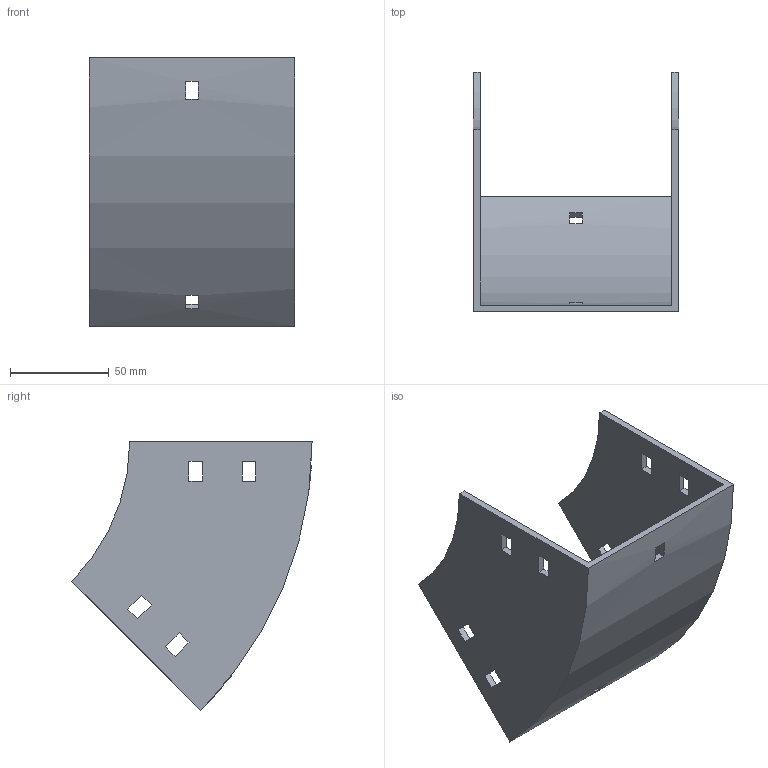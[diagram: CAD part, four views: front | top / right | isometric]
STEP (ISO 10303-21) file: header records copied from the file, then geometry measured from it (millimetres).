
FILE_DESCRIPTION (( 'STEP AP214' ), '1' );
FILE_NAME ('31B1I100.step', '2025-02-21T09:48:03', ( '' ), ( '' ), 'SwSTEP 2.0', 'SolidWorks 2023', '' );
FILE_SCHEMA (( 'AUTOMOTIVE_DESIGN' ));
Length unit declared in the file: millimetre
Products named in the file (1): 31B1I100
Bounding box: 104 x 121.79 x 136.12 mm (x, y, z)
Volume: 122865.8 mm3; surface area: 73912.3 mm2
Topology: 1 solids, 1 shells, 50 faces, 144 edges, 96 vertices
Faces by surface type: plane 46, cylinder 4
Entity records: 1687 total; most frequent: CARTESIAN_POINT 291, ORIENTED_EDGE 288, DIRECTION 262, EDGE_CURVE 144, VECTOR 128, LINE 128, VERTEX_POINT 96, EDGE_LOOP 70
